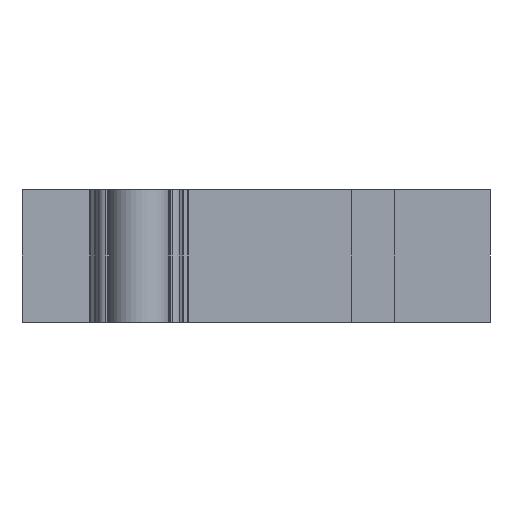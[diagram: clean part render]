
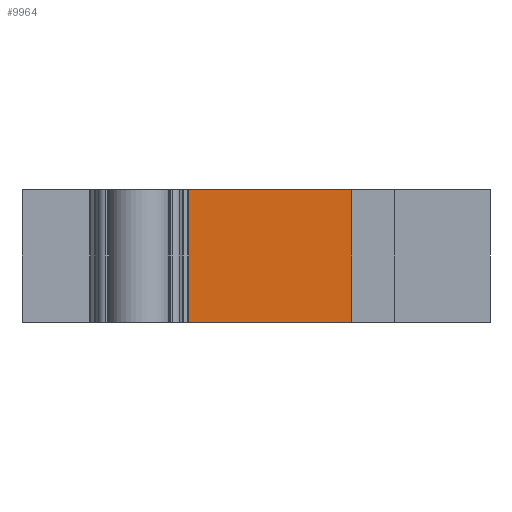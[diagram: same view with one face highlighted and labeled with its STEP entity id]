
A CAD part, left-side view. The second image highlights one B-rep face of the part: STEP entity #9964.
In plain terms, the highlighted planar face has unit normal (-1, 0, 0).
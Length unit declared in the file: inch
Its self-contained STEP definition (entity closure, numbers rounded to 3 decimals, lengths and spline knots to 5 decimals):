
#9908=CARTESIAN_POINT('',(-1.77165,-0.72441,1.0));
#9909=VERTEX_POINT('',#9908);
#9916=CARTESIAN_POINT('',(-1.77165,-0.72441,0.0));
#9917=VERTEX_POINT('',#9916);
#9918=CARTESIAN_POINT('',(-1.77165,-0.72441,0.0));
#9919=DIRECTION('',(0.0,0.0,1.0));
#9920=VECTOR('',#9919,1.0);
#9921=LINE('',#9918,#9920);
#9922=EDGE_CURVE('',#9917,#9909,#9921,.T.);
#9934=CARTESIAN_POINT('',(-1.77165,-0.72441,0.0));
#9935=DIRECTION('',(-1.0,0.0,0.0));
#9936=DIRECTION('',(0.0,0.0,1.0));
#9937=AXIS2_PLACEMENT_3D('',#9934,#9935,#9936);
#9938=PLANE('',#9937);
#9939=CARTESIAN_POINT('',(-1.77165,0.53149,1.0));
#9940=VERTEX_POINT('',#9939);
#9941=CARTESIAN_POINT('',(-1.77165,-0.72441,1.0));
#9942=DIRECTION('',(0.0,1.0,0.0));
#9943=VECTOR('',#9942,1.2559);
#9944=LINE('',#9941,#9943);
#9945=EDGE_CURVE('',#9909,#9940,#9944,.T.);
#9946=ORIENTED_EDGE('',*,*,#9945,.T.);
#9947=CARTESIAN_POINT('',(-1.77165,0.53149,0.0));
#9948=VERTEX_POINT('',#9947);
#9949=CARTESIAN_POINT('',(-1.77165,0.53149,0.0));
#9950=DIRECTION('',(0.0,0.0,1.0));
#9951=VECTOR('',#9950,1.0);
#9952=LINE('',#9949,#9951);
#9953=EDGE_CURVE('',#9948,#9940,#9952,.T.);
#9954=ORIENTED_EDGE('',*,*,#9953,.F.);
#9955=CARTESIAN_POINT('',(-1.77165,0.53149,0.0));
#9956=DIRECTION('',(0.0,-1.0,0.0));
#9957=VECTOR('',#9956,1.2559);
#9958=LINE('',#9955,#9957);
#9959=EDGE_CURVE('',#9948,#9917,#9958,.T.);
#9960=ORIENTED_EDGE('',*,*,#9959,.T.);
#9961=ORIENTED_EDGE('',*,*,#9922,.T.);
#9962=EDGE_LOOP('',(#9946,#9954,#9960,#9961));
#9963=FACE_OUTER_BOUND('',#9962,.T.);
#9964=ADVANCED_FACE('',(#9963),#9938,.T.);
